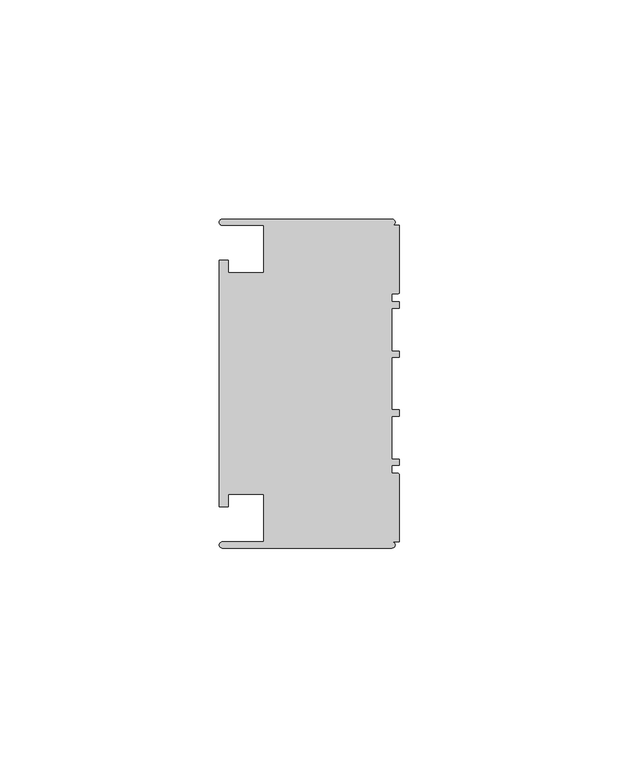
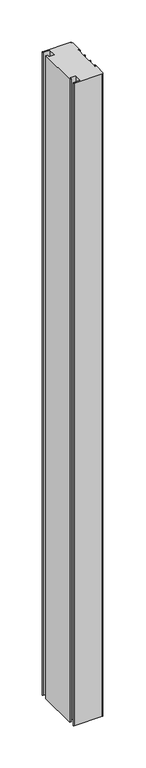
"""IFC4 building model written with IfcOpenShell, lengths in millimetres: member geometry, Прямоугольный импост : 3-AMG-2-Профиль 40Х75 Верх П."""

from ifc_helpers import new_model, si_unit, point, frame, frame_2d, origin, place, context, project, spatial, polyline, circle_curve, trimmed, segment, composite_curve, outline, extrude, source, transform, mapped, element, save


def member_af6ca4b6(model_context):
    return source(origin(), model_context, "Body", "SweptSolid", [
        extrude(outline(composite_curve([segment(polyline([(-1.7, -37.5), (-40.4, -37.5)]), True, "CONTINUOUS"), segment(trimmed(circle_curve(frame_2d((-40.4, -36.8)), 0.7), [point((-40.4, -37.5))], [point((-40.4, -36.1))], False, "CARTESIAN"), True, "CONTINUOUS"), segment(polyline([(-40.4, -36.1), (-31.0, -36.1), (-31.0, -25.25), (-39.0, -25.25), (-39.0, -28.1), (-41.1, -28.1), (-41.1, 28.1), (-39.0, 28.1), (-39.0, 25.25), (-31.0, 25.25), (-31.0, 36.1), (-40.4, 36.1)]), True, "CONTINUOUS"), segment(trimmed(circle_curve(frame_2d((-40.4, 36.8)), 0.7), [point((-40.4, 36.1))], [point((-40.4, 37.5))], False, "CARTESIAN"), True, "CONTINUOUS"), segment(polyline([(-40.4, 37.5), (-1.7, 37.5)]), True, "CONTINUOUS"), segment(trimmed(circle_curve(frame_2d((-1.7, 36.8)), 0.7), [point((-1.7, 37.5))], [point((-1.7, 36.1))], False, "CARTESIAN"), True, "CONTINUOUS"), segment(polyline([(-1.7, 36.1), (0.0, 36.1), (0.0, 20.95)]), True, "CONTINUOUS"), segment(trimmed(circle_curve(frame_2d((-0.5, 20.95)), 0.5), [point((0.0, 20.95))], [point((-0.5, 20.45))], False, "CARTESIAN"), True, "CONTINUOUS"), segment(polyline([(-0.5, 20.45), (-1.8, 20.45), (-1.8, 18.65), (0.0, 18.65), (0.0, 17.25), (-1.8, 17.25), (-1.8, 7.4), (0.0, 7.4), (0.0, 6.0), (-1.8, 6.0), (-1.8, -6.0), (0.0, -6.0), (0.0, -7.4), (-1.8, -7.4), (-1.8, -17.25), (0.0, -17.25), (0.0, -18.65), (-1.8, -18.65), (-1.8, -20.45), (-0.5, -20.45)]), True, "CONTINUOUS"), segment(trimmed(circle_curve(frame_2d((-0.5, -20.95)), 0.5), [point((-0.5, -20.45))], [point((0.0, -20.95))], False, "CARTESIAN"), True, "CONTINUOUS"), segment(polyline([(0.0, -20.95), (0.0, -36.1), (-1.7, -36.1)]), True, "CONTINUOUS"), segment(trimmed(circle_curve(frame_2d((-1.7, -36.8)), 0.7), [point((-1.7, -36.1))], [point((-1.7, -37.5))], False, "CARTESIAN"), True, "CONTINUOUS")], self_intersect=False)), frame((0.0, 0.0, -933.4011211), z_axis=(0.0, 0.0, 1.0), x_axis=(1.0, 0.0, 0.0)), (0.0, 0.0, 1.0), 933.4011211),
    ])


if __name__ == "__main__":
    model = new_model("IFC4")
    model_context = context("Model", 3, world=origin())
    ifc_project = project(units=[si_unit("LENGTHUNIT", "METRE", prefix="MILLI")], contexts=[model_context])
    site = spatial("IfcSite", under=ifc_project)
    building = spatial("IfcBuilding", under=site)
    placement = place(None, origin())
    member_shape = member_af6ca4b6(model_context)
    element("IfcMember", 1, ObjectType="Прямоугольный импост : 3-AMG-2-Профиль 40Х75 Верх П", at=placement, inside=building, context=model_context, shape_type="MappedRepresentation", body=[
        mapped(member_shape, transform((0.0, 0.0, 0.0), x_axis=(1.0, 0.0, 0.0), y_axis=(0.0, 1.0, 0.0), z_axis=(0.0, 0.0, 1.0))),
    ])
    save(model, "model.ifc")
